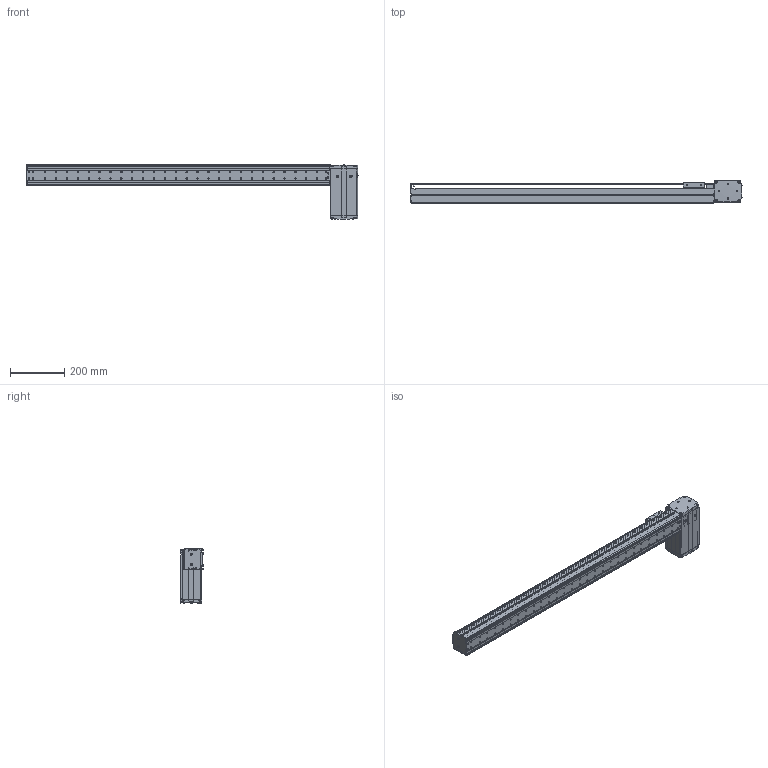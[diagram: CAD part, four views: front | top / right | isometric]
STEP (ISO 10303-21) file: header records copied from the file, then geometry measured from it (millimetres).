
FILE_DESCRIPTION((''),'2;1');
FILE_NAME('BE10_-BL-S_N-95_IGS_PRT','2017-06-18T',(' '),(''),'PRO/ENGINEER BY PARAMETRIC TECHNOLOGY CORPORATION, 2015030','PRO/ENGINEER BY PARAMETRIC TECHNOLOGY CORPORATION, 2015030','');
FILE_SCHEMA(('CONFIG_CONTROL_DESIGN'));
Products named in the file (1): BE10_-BL-S_N-95_IGS_PRT
Bounding box: 1220.8 x 82.5 x 200.22 mm (x, y, z)
Volume: 1466597.9 mm3; surface area: 1054857.5 mm2
Topology: 3 solids, 142 shells, 2076 faces, 5677 edges, 3745 vertices
Faces by surface type: plane 995, cylinder 918, cone 103, sphere 30, torus 27, bspline 3
Entity records: 67577 total; most frequent: CARTESIAN_POINT 13782, DIRECTION 11410, ORIENTED_EDGE 10766, EDGE_CURVE 5623, AXIS2_PLACEMENT_3D 4089, VERTEX_POINT 3745, VECTOR 3232, LINE 3232
